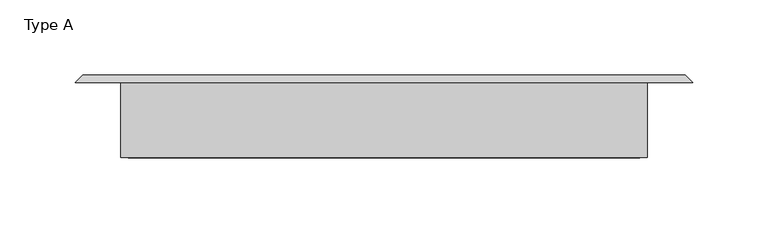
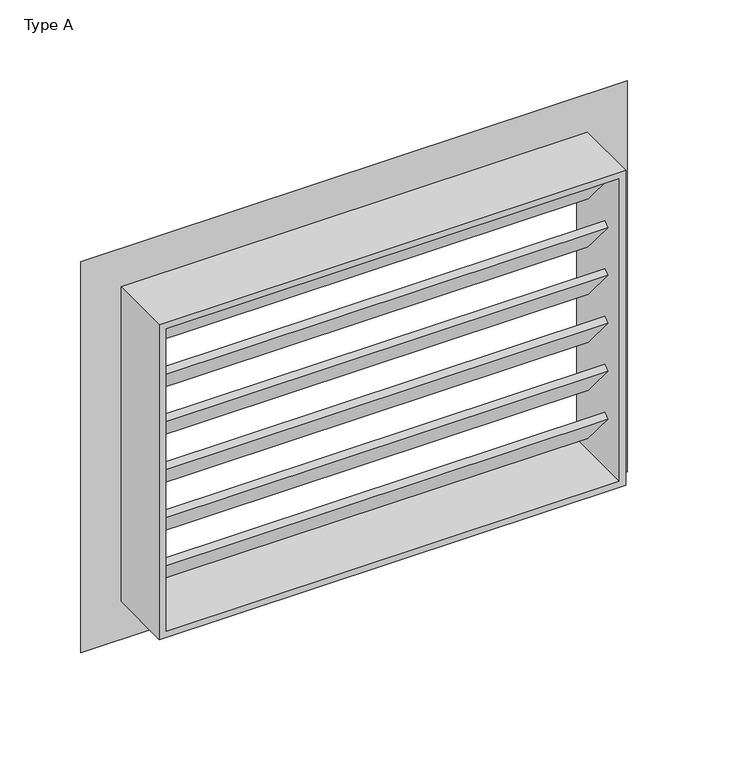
"""IFC4 building model written with IfcOpenShell, lengths in millimetres: proxy geometry, Grille d'aération - Mur : Type A."""

from ifc_helpers import new_model, si_unit, frame, origin, place, context, project, spatial, polyline, outline, extrude, faceted_brep, source, transform, mapped, element, save


def type_a_0a922c0d(model_context):
    return source(origin(), model_context, "Body", "SolidModel", [
        extrude(outline(polyline([(0.0, -5.0), (0.0, 0.0), (340.0, 0.0), (340.0, -5.0), (0.0, -5.0)])), frame((295.0, 115.0, 2053.0), z_axis=(0.0, -0.6427876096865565, 0.7660444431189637), x_axis=(-1.0, 0.0, 0.0)), (0.0, 0.0, 1.0), 40.0),
        extrude(outline(polyline([(0.0, -5.0), (0.0, 0.0), (340.0, 0.0), (340.0, -5.0), (0.0, -5.0)])), frame((295.0, 115.0, 2091.0), z_axis=(0.0, -0.6427876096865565, 0.7660444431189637), x_axis=(-1.0, 0.0, 0.0)), (0.0, 0.0, 1.0), 40.0),
        extrude(outline(polyline([(0.0, -5.0), (0.0, 0.0), (340.0, 0.0), (340.0, -5.0), (0.0, -5.0)])), frame((295.0, 115.0, 2129.0), z_axis=(0.0, -0.6427876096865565, 0.7660444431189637), x_axis=(-1.0, 0.0, 0.0)), (0.0, 0.0, 1.0), 40.0),
        extrude(outline(polyline([(0.0, -5.0), (0.0, 0.0), (340.0, 0.0), (340.0, -5.0), (0.0, -5.0)])), frame((295.0, 115.0, 2167.0), z_axis=(0.0, -0.6427876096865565, 0.7660444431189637), x_axis=(-1.0, 0.0, 0.0)), (0.0, 0.0, 1.0), 40.0),
        extrude(outline(polyline([(0.0, -5.0), (0.0, 0.0), (340.0, 0.0), (340.0, -5.0), (0.0, -5.0)])), frame((295.0, 115.0, 2015.0), z_axis=(0.0, -0.6427876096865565, 0.7660444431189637), x_axis=(-1.0, 0.0, 0.0)), (0.0, 0.0, 1.0), 40.0),
        extrude(outline(polyline([(0.0, -5.0), (0.0, 0.0), (340.0, 0.0), (340.0, -5.0), (0.0, -5.0)])), frame((295.0, 115.0, 2205.0), z_axis=(0.0, -0.6427876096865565, 0.7660444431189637), x_axis=(-1.0, 0.0, 0.0)), (0.0, 0.0, 1.0), 40.0),
        faceted_brep([(-50.0, 75.0, 2250.0), (-50.0, 125.0, 2250.0), (-50.0, 125.0, 2000.0), (-50.0, 75.0, 2000.0), (-45.0, 130.0, 2245.0), (-45.0, 75.0, 2245.0), (-45.0, 75.0, 2005.0), (-45.0, 130.0, 2005.0), (-80.284753, 125.0, 2280.284753), (-75.284753, 130.0, 2275.284753), (-75.284753, 130.0, 1974.715247), (-80.284753, 125.0, 1969.715247), (300.0, 125.0, 2000.0), (300.0, 75.0, 2000.0), (295.0, 75.0, 2005.0), (295.0, 130.0, 2005.0), (325.284753, 130.0, 1974.715247), (330.284753, 125.0, 1969.715247), (300.0, 125.0, 2250.0), (300.0, 75.0, 2250.0), (295.0, 75.0, 2245.0), (295.0, 130.0, 2245.0), (325.284753, 130.0, 2275.284753), (330.284753, 125.0, 2280.284753)], [[[0, 1, 2, 3]], [[4, 5, 6, 7]], [[8, 9, 10, 11]], [[3, 2, 12, 13]], [[7, 6, 14, 15]], [[11, 10, 16, 17]], [[13, 12, 18, 19]], [[15, 14, 20, 21]], [[17, 16, 22, 23]], [[19, 18, 1, 0]], [[3, 13, 19, 0], [5, 20, 14, 6]], [[21, 20, 5, 4]], [[9, 22, 16, 10], [7, 15, 21, 4]], [[23, 22, 9, 8]], [[11, 17, 23, 8], [1, 18, 12, 2]]]),
    ])


if __name__ == "__main__":
    model = new_model("IFC4")
    model_context = context("Model", 3, world=origin())
    ifc_project = project(units=[si_unit("LENGTHUNIT", "METRE", prefix="MILLI")], contexts=[model_context])
    site = spatial("IfcSite", under=ifc_project)
    building = spatial("IfcBuilding", under=site)
    placement = place(None, origin())
    type_a_shape = type_a_0a922c0d(model_context)
    element("IfcBuildingElementProxy", 1, Name="Grille d'aération - Mur : Type A", ObjectType="Grille d'aération - Mur : Type A", at=placement, inside=building, context=model_context, shape_type="MappedRepresentation", body=[
        mapped(type_a_shape, transform((0.0, 0.0, 0.0), x_axis=(1.0, 0.0, 0.0), y_axis=(0.0, 1.0, 0.0), z_axis=(0.0, 0.0, 1.0))),
    ])
    save(model, "model.ifc")
